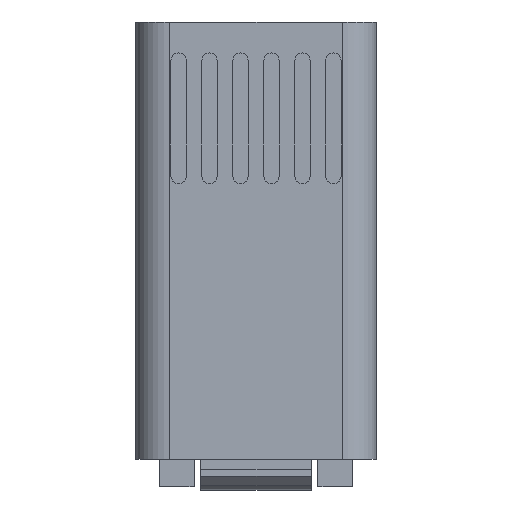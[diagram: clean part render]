
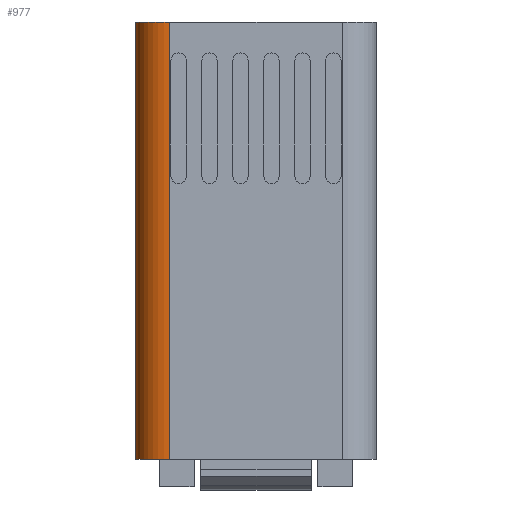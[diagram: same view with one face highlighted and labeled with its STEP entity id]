
A CAD part, front view. The second image highlights one B-rep face of the part: STEP entity #977.
In plain terms, the highlighted cylindrical face has radius 5 mm (diameter 10 mm), a partial arc.
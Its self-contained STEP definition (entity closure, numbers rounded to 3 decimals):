
#402 = CARTESIAN_POINT ( 'NONE',  ( 5., -55.9, 63.5 ) ) ;
#684 = EDGE_CURVE ( 'NONE', #13348, #16473, #14798, .T. ) ;
#765 = EDGE_LOOP ( 'NONE', ( #3735, #9583, #2853, #12753 ) ) ;
#777 = DIRECTION ( 'NONE',  ( 1., 0., 0. ) ) ;
#977 = ADVANCED_FACE ( 'NONE', ( #16645 ), #3734, .T. ) ;
#1050 = VECTOR ( 'NONE', #11542, 1000. ) ;
#2451 = DIRECTION ( 'NONE',  ( 0., 0., 1. ) ) ;
#2853 = ORIENTED_EDGE ( 'NONE', *, *, #14705, .F. ) ;
#3734 = CYLINDRICAL_SURFACE ( 'NONE', #8511, 5. ) ;
#3735 = ORIENTED_EDGE ( 'NONE', *, *, #6084, .F. ) ;
#4427 = LINE ( 'NONE', #18426, #1050 ) ;
#6084 = EDGE_CURVE ( 'NONE', #13348, #21826, #4427, .T. ) ;
#7460 = VERTEX_POINT ( 'NONE', #8875 ) ;
#8511 = AXIS2_PLACEMENT_3D ( 'NONE', #402, #11187, #10950 ) ;
#8585 = DIRECTION ( 'NONE',  ( 0., 0., 1. ) ) ;
#8875 = CARTESIAN_POINT ( 'NONE',  ( 5., -60.9, 63.5 ) ) ;
#9583 = ORIENTED_EDGE ( 'NONE', *, *, #684, .T. ) ;
#9816 = CIRCLE ( 'NONE', #10955, 5. ) ;
#10950 = DIRECTION ( 'NONE',  ( 0., 1., 0. ) ) ;
#10955 = AXIS2_PLACEMENT_3D ( 'NONE', #21139, #8585, #11653 ) ;
#11187 = DIRECTION ( 'NONE',  ( 0., 0., -1. ) ) ;
#11542 = DIRECTION ( 'NONE',  ( 0., 0., 1. ) ) ;
#11653 = DIRECTION ( 'NONE',  ( 0., -1., 0. ) ) ;
#12753 = ORIENTED_EDGE ( 'NONE', *, *, #12976, .F. ) ;
#12976 = EDGE_CURVE ( 'NONE', #21826, #7460, #9816, .T. ) ;
#13348 = VERTEX_POINT ( 'NONE', #22775 ) ;
#14043 = CARTESIAN_POINT ( 'NONE',  ( 0., -55.9, 63.5 ) ) ;
#14705 = EDGE_CURVE ( 'NONE', #7460, #16473, #20296, .T. ) ;
#14798 = CIRCLE ( 'NONE', #19750, 5. ) ;
#16473 = VERTEX_POINT ( 'NONE', #16845 ) ;
#16645 = FACE_OUTER_BOUND ( 'NONE', #765, .T. ) ;
#16845 = CARTESIAN_POINT ( 'NONE',  ( 5., -60.9, 0. ) ) ;
#18426 = CARTESIAN_POINT ( 'NONE',  ( 0., -55.9, 63.5 ) ) ;
#18683 = CARTESIAN_POINT ( 'NONE',  ( 5., -55.9, 0. ) ) ;
#19750 = AXIS2_PLACEMENT_3D ( 'NONE', #18683, #2451, #777 ) ;
#19829 = VECTOR ( 'NONE', #22537, 1000. ) ;
#20296 = LINE ( 'NONE', #22190, #19829 ) ;
#21139 = CARTESIAN_POINT ( 'NONE',  ( 5., -55.9, 63.5 ) ) ;
#21826 = VERTEX_POINT ( 'NONE', #14043 ) ;
#22190 = CARTESIAN_POINT ( 'NONE',  ( 5., -60.9, 2.5 ) ) ;
#22537 = DIRECTION ( 'NONE',  ( 0., 0., -1. ) ) ;
#22775 = CARTESIAN_POINT ( 'NONE',  ( 0., -55.9, 0. ) ) ;
